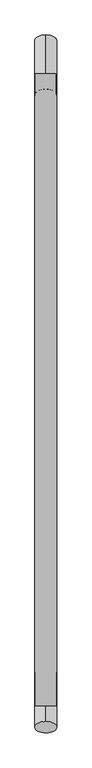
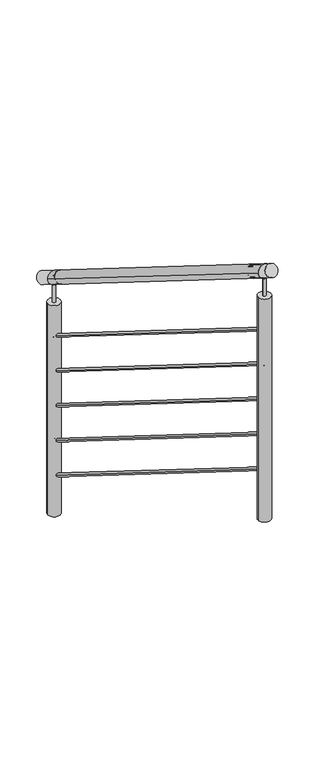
"""IFC4 building model written with IfcOpenShell, lengths in millimetres: railing geometry, Barandal escalera."""

from ifc_helpers import new_model, si_unit, point, frame, frame_2d, origin, place, context, project, spatial, circle_curve, ellipse_curve, trimmed, segment, composite_curve, outline, extrude, source, transform, mapped, element, save
from ifc_brep_helpers import plane_surface, cylinder_surface, advanced_brep


def railing_a08ae18a(model_context):
    return source(origin(), model_context, "Body", "SolidModel", [
        advanced_brep(
        [(41764.9063003, 28011.0432167, -2137.5), (41714.1063003, 28011.0432167, -2137.5), (41764.9063003, 26531.0432167, -1212.5), (41714.1063003, 26531.0432167, -1212.5)],
        [
            (0, 1, ellipse_curve(frame((41739.5063003, 28011.0432167, -2137.5), z_axis=(0.0, 1.0, 0.0), x_axis=(0.0, 0.0, -1.0)), 29.9528901, 25.4)),
            (1, 0, ellipse_curve(frame((41739.5063003, 28011.0432167, -2137.5), z_axis=(0.0, 1.0, 0.0), x_axis=(0.0, 0.0, -1.0)), 29.9528901, 25.4)),
            (2, 3, ellipse_curve(frame((41739.5063003, 26531.0432167, -1212.5), z_axis=(0.0, -1.0, 0.0), x_axis=(0.0, 0.0, -1.0)), 29.9528901, 25.4)),
            (3, 2, ellipse_curve(frame((41739.5063003, 26531.0432167, -1212.5), z_axis=(0.0, -1.0, 0.0), x_axis=(0.0, 0.0, -1.0)), 29.9528901, 25.4)),
            (0, 2),
            (3, 1),
        ],
        [
            plane_surface(frame((41739.5063003, 28011.0432167, -2137.5), z_axis=(0.0, 1.0, 0.0), x_axis=(0.0, 0.0, -1.0))),
            plane_surface(frame((41739.5063003, 26531.0432167, -1212.5), z_axis=(0.0, -1.0, 0.0), x_axis=(0.0, 0.0, -1.0))),
            cylinder_surface(frame((41739.5063003, 28011.0432167, -2137.5), z_axis=(0.0, 0.8479983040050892, -0.529998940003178), x_axis=(-1.0, 0.0, 0.0)), 25.4),
        ],
        [
            (0, [[1, 2]]),
            (1, [[3, 4]]),
            (2, [[-1, 5, -4, 6]]),
            (2, [[-2, -6, -3, -5]]),
        ],
    ),
        advanced_brep(
        [(41745.8563003, 28011.0432167, -2387.5), (41733.1563003, 28011.0432167, -2387.5), (41745.8563003, 26531.0432167, -1462.5), (41733.1563003, 26531.0432167, -1462.5)],
        [
            (0, 1, ellipse_curve(frame((41739.5063003, 28011.0432167, -2387.5), z_axis=(0.0, 1.0, 0.0), x_axis=(0.0, 0.0, -1.0)), 7.4882225, 6.35)),
            (1, 0, ellipse_curve(frame((41739.5063003, 28011.0432167, -2387.5), z_axis=(0.0, 1.0, 0.0), x_axis=(0.0, 0.0, -1.0)), 7.4882225, 6.35)),
            (2, 3, ellipse_curve(frame((41739.5063003, 26531.0432167, -1462.5), z_axis=(0.0, -1.0, 0.0), x_axis=(0.0, 0.0, -1.0)), 7.4882225, 6.35)),
            (3, 2, ellipse_curve(frame((41739.5063003, 26531.0432167, -1462.5), z_axis=(0.0, -1.0, 0.0), x_axis=(0.0, 0.0, -1.0)), 7.4882225, 6.35)),
            (0, 2),
            (3, 1),
        ],
        [
            plane_surface(frame((41739.5063003, 28011.0432167, -2387.5), z_axis=(0.0, 1.0, 0.0), x_axis=(0.0, 0.0, -1.0))),
            plane_surface(frame((41739.5063003, 26531.0432167, -1462.5), z_axis=(0.0, -1.0, 0.0), x_axis=(0.0, 0.0, -1.0))),
            cylinder_surface(frame((41739.5063003, 28011.0432167, -2387.5), z_axis=(0.0, 0.8479983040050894, -0.529998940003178), x_axis=(-1.0, 0.0, 0.0)), 6.35),
        ],
        [
            (0, [[1, 2]]),
            (1, [[3, 4]]),
            (2, [[-1, 5, -4, 6]]),
            (2, [[-2, -6, -3, -5]]),
        ],
    ),
        advanced_brep(
        [(41745.8563003, 28011.0432167, -2537.5), (41733.1563003, 28011.0432167, -2537.5), (41745.8563003, 26531.0432167, -1612.5), (41733.1563003, 26531.0432167, -1612.5)],
        [
            (0, 1, ellipse_curve(frame((41739.5063003, 28011.0432167, -2537.5), z_axis=(0.0, 1.0, 0.0), x_axis=(0.0, 0.0, -1.0)), 7.4882225, 6.35)),
            (1, 0, ellipse_curve(frame((41739.5063003, 28011.0432167, -2537.5), z_axis=(0.0, 1.0, 0.0), x_axis=(0.0, 0.0, -1.0)), 7.4882225, 6.35)),
            (2, 3, ellipse_curve(frame((41739.5063003, 26531.0432167, -1612.5), z_axis=(0.0, -1.0, 0.0), x_axis=(0.0, 0.0, -1.0)), 7.4882225, 6.35)),
            (3, 2, ellipse_curve(frame((41739.5063003, 26531.0432167, -1612.5), z_axis=(0.0, -1.0, 0.0), x_axis=(0.0, 0.0, -1.0)), 7.4882225, 6.35)),
            (0, 2),
            (3, 1),
        ],
        [
            plane_surface(frame((41739.5063003, 28011.0432167, -2537.5), z_axis=(0.0, 1.0, 0.0), x_axis=(0.0, 0.0, -1.0))),
            plane_surface(frame((41739.5063003, 26531.0432167, -1612.5), z_axis=(0.0, -1.0, 0.0), x_axis=(0.0, 0.0, -1.0))),
            cylinder_surface(frame((41739.5063003, 28011.0432167, -2537.5), z_axis=(0.0, 0.8479983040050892, -0.5299989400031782), x_axis=(-1.0, 0.0, 0.0)), 6.35),
        ],
        [
            (0, [[1, 2]]),
            (1, [[3, 4]]),
            (2, [[-1, 5, -4, 6]]),
            (2, [[-2, -6, -3, -5]]),
        ],
    ),
        advanced_brep(
        [(41745.8563003, 28011.0432167, -2687.5), (41733.1563003, 28011.0432167, -2687.5), (41745.8563003, 26531.0432167, -1762.5), (41733.1563003, 26531.0432167, -1762.5)],
        [
            (0, 1, ellipse_curve(frame((41739.5063003, 28011.0432167, -2687.5), z_axis=(0.0, 1.0, 0.0), x_axis=(0.0, 0.0, -1.0)), 7.4882225, 6.35)),
            (1, 0, ellipse_curve(frame((41739.5063003, 28011.0432167, -2687.5), z_axis=(0.0, 1.0, 0.0), x_axis=(0.0, 0.0, -1.0)), 7.4882225, 6.35)),
            (2, 3, ellipse_curve(frame((41739.5063003, 26531.0432167, -1762.5), z_axis=(0.0, -1.0, 0.0), x_axis=(0.0, 0.0, -1.0)), 7.4882225, 6.35)),
            (3, 2, ellipse_curve(frame((41739.5063003, 26531.0432167, -1762.5), z_axis=(0.0, -1.0, 0.0), x_axis=(0.0, 0.0, -1.0)), 7.4882225, 6.35)),
            (0, 2),
            (3, 1),
        ],
        [
            plane_surface(frame((41739.5063003, 28011.0432167, -2687.5), z_axis=(0.0, 1.0, 0.0), x_axis=(0.0, 0.0, -1.0))),
            plane_surface(frame((41739.5063003, 26531.0432167, -1762.5), z_axis=(0.0, -1.0, 0.0), x_axis=(0.0, 0.0, -1.0))),
            cylinder_surface(frame((41739.5063003, 28011.0432167, -2687.5), z_axis=(0.0, 0.8479983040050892, -0.5299989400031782), x_axis=(-1.0, 0.0, 0.0)), 6.35),
        ],
        [
            (0, [[1, 2]]),
            (1, [[3, 4]]),
            (2, [[-1, 5, -4, 6]]),
            (2, [[-2, -6, -3, -5]]),
        ],
    ),
        advanced_brep(
        [(41745.8563003, 28011.0432167, -2837.5), (41733.1563003, 28011.0432167, -2837.5), (41745.8563003, 26531.0432167, -1912.5), (41733.1563003, 26531.0432167, -1912.5)],
        [
            (0, 1, ellipse_curve(frame((41739.5063003, 28011.0432167, -2837.5), z_axis=(0.0, 1.0, 0.0), x_axis=(0.0, 0.0, -1.0)), 7.4882225, 6.35)),
            (1, 0, ellipse_curve(frame((41739.5063003, 28011.0432167, -2837.5), z_axis=(0.0, 1.0, 0.0), x_axis=(0.0, 0.0, -1.0)), 7.4882225, 6.35)),
            (2, 3, ellipse_curve(frame((41739.5063003, 26531.0432167, -1912.5), z_axis=(0.0, -1.0, 0.0), x_axis=(0.0, 0.0, -1.0)), 7.4882225, 6.35)),
            (3, 2, ellipse_curve(frame((41739.5063003, 26531.0432167, -1912.5), z_axis=(0.0, -1.0, 0.0), x_axis=(0.0, 0.0, -1.0)), 7.4882225, 6.35)),
            (0, 2),
            (3, 1),
        ],
        [
            plane_surface(frame((41739.5063003, 28011.0432167, -2837.5), z_axis=(0.0, 1.0, 0.0), x_axis=(0.0, 0.0, -1.0))),
            plane_surface(frame((41739.5063003, 26531.0432167, -1912.5), z_axis=(0.0, -1.0, 0.0), x_axis=(0.0, 0.0, -1.0))),
            cylinder_surface(frame((41739.5063003, 28011.0432167, -2837.5), z_axis=(0.0, 0.8479983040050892, -0.5299989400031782), x_axis=(-1.0, 0.0, 0.0)), 6.35),
        ],
        [
            (0, [[1, 2]]),
            (1, [[3, 4]]),
            (2, [[-1, 5, -4, 6]]),
            (2, [[-2, -6, -3, -5]]),
        ],
    ),
        advanced_brep(
        [(41745.8563003, 28011.0432167, -2987.5), (41733.1563003, 28011.0432167, -2987.5), (41745.8563003, 26531.0432167, -2062.5), (41733.1563003, 26531.0432167, -2062.5)],
        [
            (0, 1, ellipse_curve(frame((41739.5063003, 28011.0432167, -2987.5), z_axis=(0.0, 1.0, 0.0), x_axis=(0.0, 0.0, -1.0)), 7.4882225, 6.35)),
            (1, 0, ellipse_curve(frame((41739.5063003, 28011.0432167, -2987.5), z_axis=(0.0, 1.0, 0.0), x_axis=(0.0, 0.0, -1.0)), 7.4882225, 6.35)),
            (2, 3, ellipse_curve(frame((41739.5063003, 26531.0432167, -2062.5), z_axis=(0.0, -1.0, 0.0), x_axis=(0.0, 0.0, -1.0)), 7.4882225, 6.35)),
            (3, 2, ellipse_curve(frame((41739.5063003, 26531.0432167, -2062.5), z_axis=(0.0, -1.0, 0.0), x_axis=(0.0, 0.0, -1.0)), 7.4882225, 6.35)),
            (0, 2),
            (3, 1),
        ],
        [
            plane_surface(frame((41739.5063003, 28011.0432167, -2987.5), z_axis=(0.0, 1.0, 0.0), x_axis=(0.0, 0.0, -1.0))),
            plane_surface(frame((41739.5063003, 26531.0432167, -2062.5), z_axis=(0.0, -1.0, 0.0), x_axis=(0.0, 0.0, -1.0))),
            cylinder_surface(frame((41739.5063003, 28011.0432167, -2987.5), z_axis=(0.0, 0.8479983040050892, -0.5299989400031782), x_axis=(-1.0, 0.0, 0.0)), 6.35),
        ],
        [
            (0, [[1, 2]]),
            (1, [[3, 4]]),
            (2, [[-1, 5, -4, 6]]),
            (2, [[-2, -6, -3, -5]]),
        ],
    ),
        extrude(outline(composite_curve([segment(trimmed(circle_curve(frame_2d((0.0, 25.4)), 25.4), [point((0.0, 0.0))], [point((0.0, 50.8))], False, "CARTESIAN"), True, "CONTINUOUS"), segment(trimmed(circle_curve(frame_2d((0.0, 25.4)), 25.4), [point((0.0, 50.8))], [point((0.0, 0.0))], False, "CARTESIAN"), True, "CONTINUOUS")], self_intersect=False)), frame((41739.5063003, 26594.646824, -1282.1968349), z_axis=(0.0, -0.848048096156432, 0.5299192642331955), x_axis=(1.0, 0.0, 0.0)), (0.0, 0.0, 1.0), 150.0),
        extrude(outline(composite_curve([segment(trimmed(circle_curve(frame_2d((41739.5063003, 26531.0432167)), 6.35), [point((41733.1563003, 26531.0432167))], [point((41745.8563003, 26531.0432167))], False, "CARTESIAN"), True, "CONTINUOUS"), segment(trimmed(circle_curve(frame_2d((41739.5063003, 26531.0432167)), 6.35), [point((41745.8563003, 26531.0432167))], [point((41733.1563003, 26531.0432167))], False, "CARTESIAN"), True, "CONTINUOUS")], self_intersect=False)), frame((0.0, 0.0, -1317.4528901), z_axis=(0.0, 0.0, 1.0), x_axis=(1.0, 0.0, 0.0)), (0.0, 0.0, 1.0), 75.0),
        extrude(outline(composite_curve([segment(trimmed(circle_curve(frame_2d((41739.5063003, 26531.0432167)), 25.4), [point((41714.1063003, 26531.0432167))], [point((41764.9063003, 26531.0432167))], False, "CARTESIAN"), True, "CONTINUOUS"), segment(trimmed(circle_curve(frame_2d((41739.5063003, 26531.0432167)), 25.4), [point((41764.9063003, 26531.0432167))], [point((41714.1063003, 26531.0432167))], False, "CARTESIAN"), True, "CONTINUOUS")], self_intersect=False)), frame((0.0, 0.0, -2275.0), z_axis=(0.0, 0.0, 1.0), x_axis=(1.0, 0.0, 0.0)), (0.0, 0.0, 1.0), 957.5471099),
        extrude(outline(composite_curve([segment(trimmed(circle_curve(frame_2d((0.0, 25.4)), 25.4), [point((0.0, 0.0))], [point((0.0, 50.8))], False, "CARTESIAN"), True, "CONTINUOUS"), segment(trimmed(circle_curve(frame_2d((0.0, 25.4)), 25.4), [point((0.0, 50.8))], [point((0.0, 0.0))], False, "CARTESIAN"), True, "CONTINUOUS")], self_intersect=False)), frame((41739.5063003, 28074.646824, -2207.1968349), z_axis=(0.0, -0.8480480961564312, 0.5299192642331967), x_axis=(1.0, 0.0, 0.0)), (0.0, 0.0, 1.0), 150.0),
        extrude(outline(composite_curve([segment(trimmed(circle_curve(frame_2d((41739.5063003, 28011.0432167)), 6.35), [point((41733.1563003, 28011.0432167))], [point((41745.8563003, 28011.0432167))], False, "CARTESIAN"), True, "CONTINUOUS"), segment(trimmed(circle_curve(frame_2d((41739.5063003, 28011.0432167)), 6.35), [point((41745.8563003, 28011.0432167))], [point((41733.1563003, 28011.0432167))], False, "CARTESIAN"), True, "CONTINUOUS")], self_intersect=False)), frame((0.0, 0.0, -2242.4528901), z_axis=(0.0, 0.0, 1.0), x_axis=(1.0, 0.0, 0.0)), (0.0, 0.0, 1.0), 75.0),
        extrude(outline(composite_curve([segment(trimmed(circle_curve(frame_2d((41739.5063003, 28011.0432167)), 25.4), [point((41714.1063003, 28011.0432167))], [point((41764.9063003, 28011.0432167))], False, "CARTESIAN"), True, "CONTINUOUS"), segment(trimmed(circle_curve(frame_2d((41739.5063003, 28011.0432167)), 25.4), [point((41764.9063003, 28011.0432167))], [point((41714.1063003, 28011.0432167))], False, "CARTESIAN"), True, "CONTINUOUS")], self_intersect=False)), frame((0.0, 0.0, -3150.0), z_axis=(0.0, 0.0, 1.0), x_axis=(1.0, 0.0, 0.0)), (0.0, 0.0, 1.0), 907.5471099),
    ])


if __name__ == "__main__":
    model = new_model("IFC4")
    model_context = context("Model", 3, world=origin())
    ifc_project = project(units=[si_unit("LENGTHUNIT", "METRE", prefix="MILLI")], contexts=[model_context])
    site = spatial("IfcSite", under=ifc_project)
    building = spatial("IfcBuilding", under=site)
    placement = place(None, origin())
    railing_shape = railing_a08ae18a(model_context)
    element("IfcRailing", 1, ObjectType="Barandal escalera", at=placement, inside=building, context=model_context, shape_type="MappedRepresentation", body=[
        mapped(railing_shape, transform((0.0, 0.0, 0.0), x_axis=(1.0, 0.0, 0.0), y_axis=(0.0, 1.0, 0.0), z_axis=(0.0, 0.0, 1.0))),
    ])
    save(model, "model.ifc")
